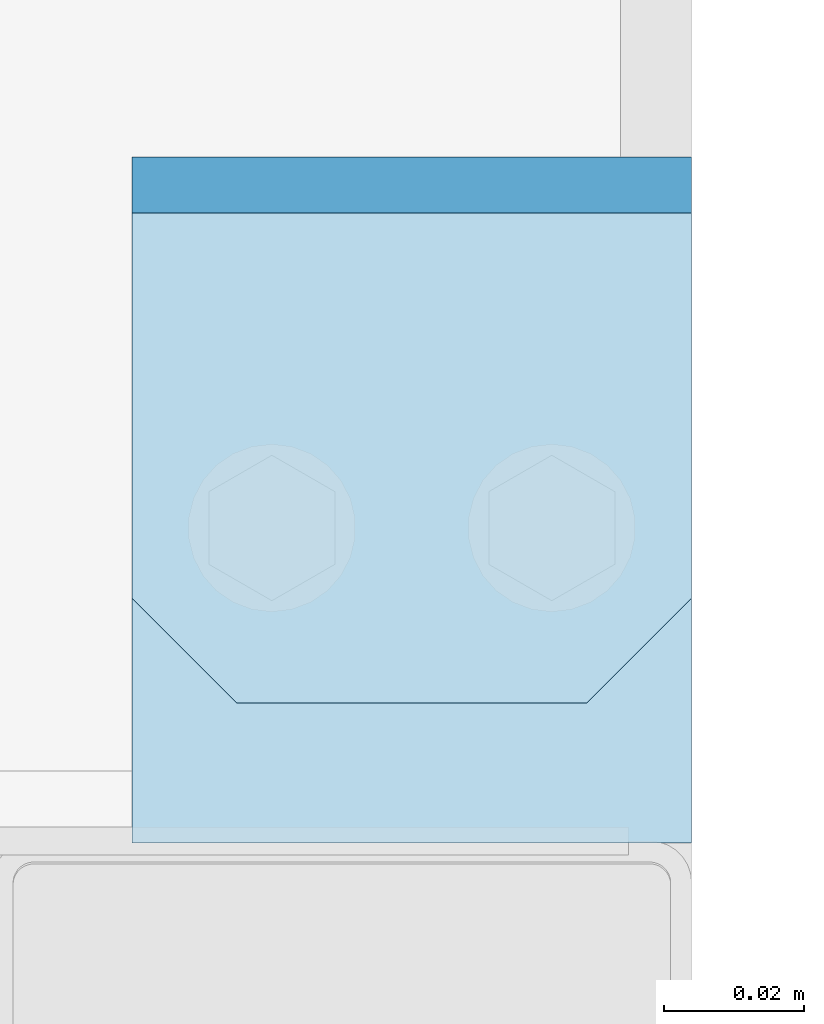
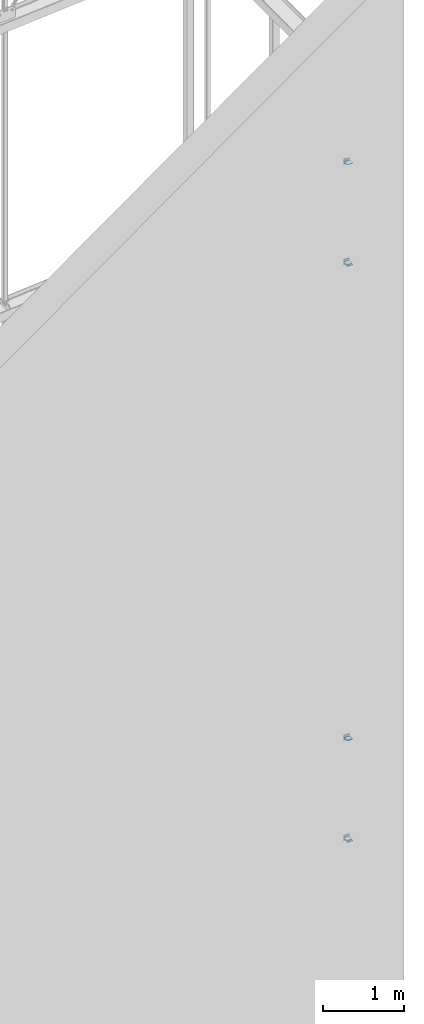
# One storey, part 163 of 271: 12 plates, 6 elements without a shape of their own.
"""IFC2X3 building model written with IfcOpenShell, lengths in millimetres."""

from ifc_helpers import new_model, si_unit, frame, origin_with_axes, place, context, subcontext, project, spatial, polyline, outline, extrude, material, type_object, element, aggregate, save


model = new_model("IFC2X3")

# Units and contexts
model_context = context("Model", 3, precision=1e-05, world=origin_with_axes())
body_context = subcontext(model_context, "Body", "Model", "MODEL_VIEW")
ifc_project = project(units=[si_unit("LENGTHUNIT", "METRE", prefix="MILLI"), si_unit("AREAUNIT", "SQUARE_METRE"), si_unit("VOLUMEUNIT", "CUBIC_METRE"), si_unit("MASSUNIT", "GRAM", prefix="KILO"), si_unit("TIMEUNIT", "SECOND"), si_unit("PLANEANGLEUNIT", "RADIAN"), si_unit("SOLIDANGLEUNIT", "STERADIAN"), si_unit("THERMODYNAMICTEMPERATUREUNIT", "DEGREE_CELSIUS"), si_unit("LUMINOUSINTENSITYUNIT", "LUMEN")], contexts=[model_context])

# Site, building, storey
site_placement = place(None, origin_with_axes())
site = spatial("IfcSite", under=ifc_project, at=site_placement, Name="Undefined", CompositionType="ELEMENT")
building_placement = place(site_placement, origin_with_axes())
building = spatial("IfcBuilding", under=site, at=building_placement, Name="Undefined", CompositionType="ELEMENT")
storey_placement = place(building_placement, origin_with_axes())
storey = spatial("IfcBuildingStorey", under=building, at=storey_placement, Name="Undefined", CompositionType="ELEMENT", Elevation=0.0)

# Assembly, plate
assembly_1_placement = place(storey_placement, origin_with_axes())
assembly_1 = element("IfcElementAssembly", 1, at=assembly_1_placement, inside=storey, AssemblyPlace="NOTDEFINED", PredefinedType="RIGID_FRAME")
ifc_material = material(Name="STEEL/S355JR")
plate_type_1 = type_object("IfcPlateType", Name="BL10*70", PredefinedType="NOTDEFINED")
plate_1_placement = place(assembly_1_placement, frame((12628.3756870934, 984.052119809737, 2771.84999990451), z_axis=(0.0, 0.0, 1.0), x_axis=(0.707106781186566, -0.707106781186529, 0.0)))
plate_1 = element("IfcPlate", 2, at=plate_1_placement, type_object=plate_type_1, material=ifc_material, Name="BLACHA", ObjectType="BL10*70", context=body_context, shape_type="SweptSolid", body=[
    extrude(outline(polyline([(0.0, 0.0), (21.2132034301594, 1.09139364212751e-11), (56.5685424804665, 35.3553390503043), (56.568542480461, 56.5685424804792), (17.6776695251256, 95.4594192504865), (-38.890872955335, 38.8908729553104), (0.0, 0.0)])), frame((0.0, 0.0, -5.0), z_axis=(0.0, 0.0, 1.0), x_axis=(1.0, 0.0, 0.0)), (0.0, 0.0, 1.0), 10.0),
])

assembly_2_placement = place(storey_placement, origin_with_axes())
assembly_2 = element("IfcElementAssembly", 3, at=assembly_2_placement, inside=storey, AssemblyPlace="NOTDEFINED", PredefinedType="RIGID_FRAME")
plate_2_placement = place(assembly_2_placement, frame((12628.3756870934, 949.052119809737, 2761.84999990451), z_axis=(0.0, 0.0, 1.0), x_axis=(1.0, 0.0, 0.0)))
plate_2 = element("IfcPlate", 4, at=plate_2_placement, type_object=plate_type_1, material=ifc_material, Name="BLACHA", ObjectType="BL10*70", context=body_context, shape_type="SweptSolid", body=[
    extrude(outline(polyline([(0.0, 0.0), (80.0, 0.0), (80.0, 70.0), (0.0, 70.0), (0.0, 0.0)])), frame((0.0, 0.0, -5.0), z_axis=(0.0, 0.0, 1.0), x_axis=(1.0, 0.0, 0.0)), (0.0, 0.0, 1.0), 10.0),
])

assembly_3_placement = place(storey_placement, origin_with_axes())
assembly_3 = element("IfcElementAssembly", 5, at=assembly_3_placement, inside=storey, AssemblyPlace="NOTDEFINED", PredefinedType="RIGID_FRAME")
plate_3_placement = place(assembly_3_placement, frame((12708.3756870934, 984.052119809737, 4276.84999990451), z_axis=(0.0, 0.0, -1.0), x_axis=(-0.707106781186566, -0.707106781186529, 0.0)))
plate_3 = element("IfcPlate", 6, at=plate_3_placement, type_object=plate_type_1, material=ifc_material, Name="BLACHA", ObjectType="BL10*70", context=body_context, shape_type="SweptSolid", body=[
    extrude(outline(polyline([(0.0, 0.0), (21.2132034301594, 1.09139364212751e-11), (56.5685424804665, 35.3553390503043), (56.568542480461, 56.5685424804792), (17.6776695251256, 95.4594192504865), (-38.890872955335, 38.8908729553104), (0.0, 0.0)])), frame((0.0, 0.0, -5.0), z_axis=(0.0, 0.0, 1.0), x_axis=(1.0, 0.0, 0.0)), (0.0, 0.0, 1.0), 10.0),
])

# Plate
plate_4_placement = place(assembly_2_placement, frame((12708.3756870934, 949.052119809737, 4286.84999990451), z_axis=(0.0, 0.0, -1.0), x_axis=(-1.0, 0.0, 1.38777878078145e-17)))
plate_4 = element("IfcPlate", 7, at=plate_4_placement, type_object=plate_type_1, material=ifc_material, Name="BLACHA", ObjectType="BL10*70", context=body_context, shape_type="SweptSolid", body=[
    extrude(outline(polyline([(0.0, 0.0), (80.0, 0.0), (80.0, 70.0), (0.0, 70.0), (0.0, 0.0)])), frame((0.0, 0.0, -5.0), z_axis=(0.0, 0.0, 1.0), x_axis=(1.0, 0.0, 0.0)), (0.0, 0.0, 1.0), 10.0),
])

aggregate(assembly_2, [plate_2, plate_4])

# Assembly, plate
assembly_4_placement = place(storey_placement, origin_with_axes())
assembly_4 = element("IfcElementAssembly", 8, at=assembly_4_placement, inside=storey, AssemblyPlace="NOTDEFINED", PredefinedType="RIGID_FRAME")
plate_5_placement = place(assembly_4_placement, frame((12628.3756870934, 984.052119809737, 11411.8499999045), z_axis=(0.0, 0.0, 1.0), x_axis=(0.707106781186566, -0.707106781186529, 0.0)))
plate_5 = element("IfcPlate", 9, at=plate_5_placement, type_object=plate_type_1, material=ifc_material, Name="BLACHA", ObjectType="BL10*70", context=body_context, shape_type="SweptSolid", body=[
    extrude(outline(polyline([(0.0, 0.0), (21.2132034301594, 1.09139364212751e-11), (56.5685424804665, 35.3553390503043), (56.568542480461, 56.5685424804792), (17.6776695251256, 95.4594192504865), (-38.890872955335, 38.8908729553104), (0.0, 0.0)])), frame((0.0, 0.0, -5.0), z_axis=(0.0, 0.0, 1.0), x_axis=(1.0, 0.0, 0.0)), (0.0, 0.0, 1.0), 10.0),
])

assembly_5_placement = place(storey_placement, origin_with_axes())
assembly_5 = element("IfcElementAssembly", 10, at=assembly_5_placement, inside=storey, AssemblyPlace="NOTDEFINED", PredefinedType="RIGID_FRAME")
plate_6_placement = place(assembly_5_placement, frame((12628.3756870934, 949.052119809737, 11401.8499999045), z_axis=(0.0, 0.0, 1.0), x_axis=(1.0, 0.0, 0.0)))
plate_6 = element("IfcPlate", 11, at=plate_6_placement, type_object=plate_type_1, material=ifc_material, Name="BLACHA", ObjectType="BL10*70", context=body_context, shape_type="SweptSolid", body=[
    extrude(outline(polyline([(0.0, 0.0), (80.0, 0.0), (80.0, 70.0), (0.0, 70.0), (0.0, 0.0)])), frame((0.0, 0.0, -5.0), z_axis=(0.0, 0.0, 1.0), x_axis=(1.0, 0.0, 0.0)), (0.0, 0.0, 1.0), 10.0),
])

assembly_6_placement = place(storey_placement, origin_with_axes())
assembly_6 = element("IfcElementAssembly", 12, at=assembly_6_placement, inside=storey, AssemblyPlace="NOTDEFINED", PredefinedType="RIGID_FRAME")
plate_7_placement = place(assembly_6_placement, frame((12708.3756870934, 984.052119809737, 12916.8499999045), z_axis=(0.0, 0.0, -1.0), x_axis=(-0.707106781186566, -0.707106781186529, 0.0)))
plate_7 = element("IfcPlate", 13, at=plate_7_placement, type_object=plate_type_1, material=ifc_material, Name="BLACHA", ObjectType="BL10*70", context=body_context, shape_type="SweptSolid", body=[
    extrude(outline(polyline([(0.0, 0.0), (21.2132034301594, 1.09139364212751e-11), (56.5685424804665, 35.3553390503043), (56.568542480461, 56.5685424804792), (17.6776695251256, 95.4594192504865), (-38.890872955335, 38.8908729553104), (0.0, 0.0)])), frame((0.0, 0.0, -5.0), z_axis=(0.0, 0.0, 1.0), x_axis=(1.0, 0.0, 0.0)), (0.0, 0.0, 1.0), 10.0),
])

# Plate
plate_8_placement = place(assembly_5_placement, frame((12708.3756870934, 949.052119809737, 12926.8499999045), z_axis=(0.0, 0.0, -1.0), x_axis=(-1.0, 0.0, 1.38777878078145e-17)))
plate_8 = element("IfcPlate", 14, at=plate_8_placement, type_object=plate_type_1, material=ifc_material, Name="BLACHA", ObjectType="BL10*70", context=body_context, shape_type="SweptSolid", body=[
    extrude(outline(polyline([(0.0, 0.0), (80.0, 0.0), (80.0, 70.0), (0.0, 70.0), (0.0, 0.0)])), frame((0.0, 0.0, -5.0), z_axis=(0.0, 0.0, 1.0), x_axis=(1.0, 0.0, 0.0)), (0.0, 0.0, 1.0), 10.0),
])

aggregate(assembly_5, [plate_6, plate_8])

plate_type_2 = type_object("IfcPlateType", Name="BL8*80", PredefinedType="NOTDEFINED")
plate_9_placement = place(assembly_1_placement, frame((12628.3756870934, 1043.05211980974, 2731.84999990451), z_axis=(0.0, -1.0, 0.0), x_axis=(1.0, 0.0, 0.0)))
plate_9 = element("IfcPlate", 15, at=plate_9_placement, type_object=plate_type_2, material=ifc_material, Name="BLACHA", ObjectType="BL8*80", context=body_context, shape_type="SweptSolid", body=[
    extrude(outline(polyline([(0.0, 0.0), (80.0, 0.0), (80.0, 80.0), (0.0, 80.0), (0.0, 0.0)])), frame((0.0, 0.0, -4.0), z_axis=(0.0, 0.0, 1.0), x_axis=(1.0, 0.0, 0.0)), (0.0, 0.0, 1.0), 8.0),
])

aggregate(assembly_1, [plate_9, plate_1])

plate_10_placement = place(assembly_3_placement, frame((12708.3756870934, 1043.05211980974, 4316.84999990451), z_axis=(0.0, -1.0, 0.0), x_axis=(-1.0, 0.0, 1.38777878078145e-17)))
plate_10 = element("IfcPlate", 16, at=plate_10_placement, type_object=plate_type_2, material=ifc_material, Name="BLACHA", ObjectType="BL8*80", context=body_context, shape_type="SweptSolid", body=[
    extrude(outline(polyline([(0.0, 0.0), (80.0, 0.0), (80.0, 80.0), (0.0, 80.0), (0.0, 0.0)])), frame((0.0, 0.0, -4.0), z_axis=(0.0, 0.0, 1.0), x_axis=(1.0, 0.0, 0.0)), (0.0, 0.0, 1.0), 8.0),
])

aggregate(assembly_3, [plate_10, plate_3])

plate_11_placement = place(assembly_4_placement, frame((12628.3756870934, 1043.05211980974, 11371.8499999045), z_axis=(0.0, -1.0, 0.0), x_axis=(1.0, 0.0, 0.0)))
plate_11 = element("IfcPlate", 17, at=plate_11_placement, type_object=plate_type_2, material=ifc_material, Name="BLACHA", ObjectType="BL8*80", context=body_context, shape_type="SweptSolid", body=[
    extrude(outline(polyline([(0.0, 0.0), (80.0, 0.0), (80.0, 80.0), (0.0, 80.0), (0.0, 0.0)])), frame((0.0, 0.0, -4.0), z_axis=(0.0, 0.0, 1.0), x_axis=(1.0, 0.0, 0.0)), (0.0, 0.0, 1.0), 8.0),
])

aggregate(assembly_4, [plate_11, plate_5])

plate_12_placement = place(assembly_6_placement, frame((12708.3756870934, 1043.05211980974, 12956.8499999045), z_axis=(0.0, -1.0, 0.0), x_axis=(-1.0, 0.0, 1.38777878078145e-17)))
plate_12 = element("IfcPlate", 18, at=plate_12_placement, type_object=plate_type_2, material=ifc_material, Name="BLACHA", ObjectType="BL8*80", context=body_context, shape_type="SweptSolid", body=[
    extrude(outline(polyline([(0.0, 0.0), (80.0, 0.0), (80.0, 80.0), (0.0, 80.0), (0.0, 0.0)])), frame((0.0, 0.0, -4.0), z_axis=(0.0, 0.0, 1.0), x_axis=(1.0, 0.0, 0.0)), (0.0, 0.0, 1.0), 8.0),
])

aggregate(assembly_6, [plate_12, plate_7])

save(model, "model.ifc")
